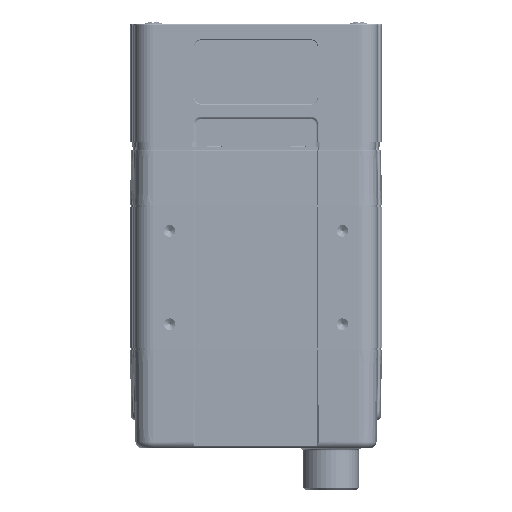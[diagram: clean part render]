
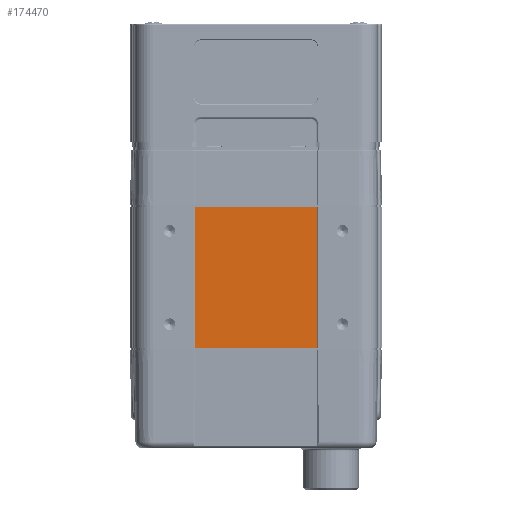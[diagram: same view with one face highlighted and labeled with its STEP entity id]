
A CAD part, front view. The second image highlights one B-rep face of the part: STEP entity #174470.
In plain terms, the highlighted planar face has unit normal (0, -1, 0).
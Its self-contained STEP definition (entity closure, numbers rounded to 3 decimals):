
#5022 = EDGE_CURVE ( 'NONE', #138734, #19137, #48787, .T. ) ;
#7514 = CARTESIAN_POINT ( 'NONE',  ( 13., -19.7, 0. ) ) ;
#7843 = FACE_OUTER_BOUND ( 'NONE', #117451, .T. ) ;
#12310 = DIRECTION ( 'NONE',  ( 0., 0., 1. ) ) ;
#19137 = VERTEX_POINT ( 'NONE', #7514 ) ;
#29984 = CARTESIAN_POINT ( 'NONE',  ( 0., -19.7, 30. ) ) ;
#34036 = LINE ( 'NONE', #202616, #125640 ) ;
#48787 = LINE ( 'NONE', #200581, #97408 ) ;
#49451 = VERTEX_POINT ( 'NONE', #124233 ) ;
#89984 = VERTEX_POINT ( 'NONE', #145309 ) ;
#97408 = VECTOR ( 'NONE', #236611, 1000. ) ;
#110860 = DIRECTION ( 'NONE',  ( 1., 0., 0. ) ) ;
#111711 = ORIENTED_EDGE ( 'NONE', *, *, #177136, .F. ) ;
#117451 = EDGE_LOOP ( 'NONE', ( #124935, #222395, #111711, #137917 ) ) ;
#118708 = LINE ( 'NONE', #189597, #216008 ) ;
#121950 = DIRECTION ( 'NONE',  ( 0., 1., 0. ) ) ;
#123731 = EDGE_CURVE ( 'NONE', #49451, #19137, #180401, .T. ) ;
#124233 = CARTESIAN_POINT ( 'NONE',  ( -13., -19.7, 0. ) ) ;
#124935 = ORIENTED_EDGE ( 'NONE', *, *, #123731, .T. ) ;
#125640 = VECTOR ( 'NONE', #166660, 1000. ) ;
#137917 = ORIENTED_EDGE ( 'NONE', *, *, #207729, .T. ) ;
#138734 = VERTEX_POINT ( 'NONE', #195464 ) ;
#145309 = CARTESIAN_POINT ( 'NONE',  ( -13., -19.7, 30. ) ) ;
#152866 = DIRECTION ( 'NONE',  ( 1., 0., 0. ) ) ;
#158027 = PLANE ( 'NONE',  #164882 ) ;
#164882 = AXIS2_PLACEMENT_3D ( 'NONE', #29984, #121950, #12310 ) ;
#166660 = DIRECTION ( 'NONE',  ( 0., 0., -1. ) ) ;
#174470 = ADVANCED_FACE ( 'NONE', ( #7843 ), #158027, .F. ) ;
#177136 = EDGE_CURVE ( 'NONE', #89984, #138734, #118708, .T. ) ;
#180401 = LINE ( 'NONE', #219704, #229020 ) ;
#189597 = CARTESIAN_POINT ( 'NONE',  ( 0., -19.7, 30. ) ) ;
#195464 = CARTESIAN_POINT ( 'NONE',  ( 13., -19.7, 30. ) ) ;
#200581 = CARTESIAN_POINT ( 'NONE',  ( 13., -19.7, 30. ) ) ;
#202616 = CARTESIAN_POINT ( 'NONE',  ( -13., -19.7, 30. ) ) ;
#207729 = EDGE_CURVE ( 'NONE', #89984, #49451, #34036, .T. ) ;
#216008 = VECTOR ( 'NONE', #152866, 1000. ) ;
#219704 = CARTESIAN_POINT ( 'NONE',  ( 0., -19.7, 0. ) ) ;
#222395 = ORIENTED_EDGE ( 'NONE', *, *, #5022, .F. ) ;
#229020 = VECTOR ( 'NONE', #110860, 1000. ) ;
#236611 = DIRECTION ( 'NONE',  ( 0., 0., -1. ) ) ;
